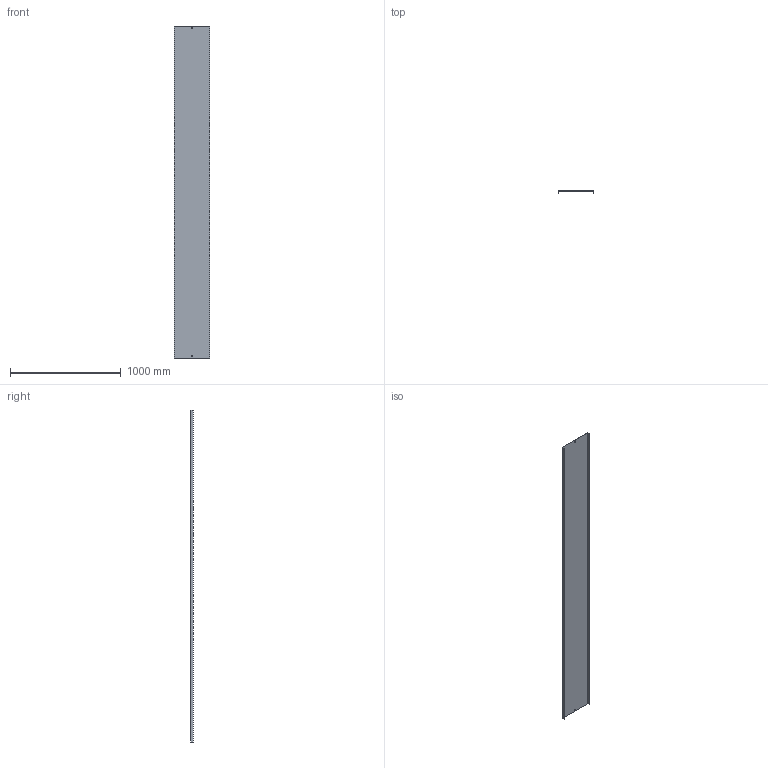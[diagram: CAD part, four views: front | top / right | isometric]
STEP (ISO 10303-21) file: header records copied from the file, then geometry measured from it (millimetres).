
FILE_DESCRIPTION (( 'STEP AP214' ), '1' );
FILE_NAME ('05G3P300.step', '2025-02-21T14:22:23', ( '' ), ( '' ), 'SwSTEP 2.0', 'SolidWorks 2023', '' );
FILE_SCHEMA (( 'AUTOMOTIVE_DESIGN' ));
Length unit declared in the file: millimetre
Products named in the file (1): 05G3P300
Bounding box: 323 x 20 x 3000 mm (x, y, z)
Volume: 1619824.5 mm3; surface area: 2169939 mm2
Topology: 1 solids, 1 shells, 18 faces, 48 edges, 32 vertices
Faces by surface type: plane 18
Entity records: 583 total; most frequent: CARTESIAN_POINT 99, ORIENTED_EDGE 96, DIRECTION 86, LINE 48, VECTOR 48, EDGE_CURVE 48, VERTEX_POINT 32, EDGE_LOOP 22
